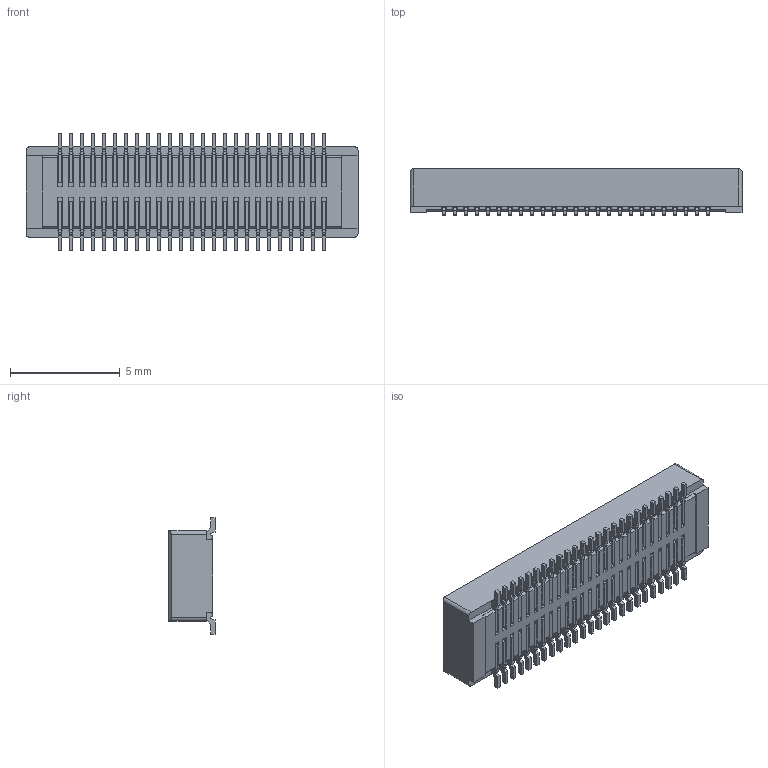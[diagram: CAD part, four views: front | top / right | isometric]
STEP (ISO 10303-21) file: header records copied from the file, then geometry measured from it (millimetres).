
FILE_DESCRIPTION((''),'2;1');
FILE_NAME('541020504','2013-09-26T',('me'),(''),'PRO/ENGINEER BY PARAMETRIC TECHNOLOGY CORPORATION, 2011490','PRO/ENGINEER BY PARAMETRIC TECHNOLOGY CORPORATION, 2011490','');
FILE_SCHEMA(('CONFIG_CONTROL_DESIGN'));
Products named in the file (1): 541020504
Bounding box: 15.1 x 2.1 x 5.3 mm (x, y, z)
Volume: 89.8 mm3; surface area: 554.2 mm2
Topology: 1 solids, 1 shells, 2626 faces, 8846 edges, 5824 vertices
Faces by surface type: plane 2098, cylinder 520, cone 4, torus 4
Entity records: 95241 total; most frequent: ORIENTED_EDGE 17292, CARTESIAN_POINT 17111, DIRECTION 15244, EDGE_CURVE 8646, VECTOR 7694, LINE 7694, VERTEX_POINT 5624, AXIS2_PLACEMENT_3D 3775
